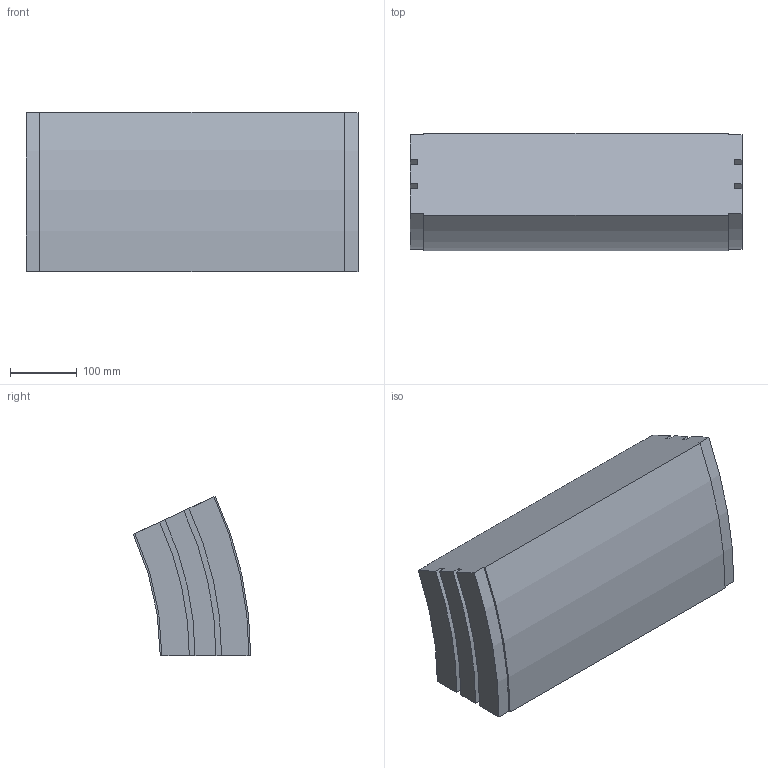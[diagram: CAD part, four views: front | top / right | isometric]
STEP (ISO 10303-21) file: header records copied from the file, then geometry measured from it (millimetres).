
FILE_DESCRIPTION (( 'STEP AP214' ), '1' );
FILE_NAME ('02.150V25.500.N FS-500-MTC-150 Bocht verticaal 25°.STEP', '2013-03-29T13:10:30', ( 'Gebruiker' ), ( '' ), 'SwSTEP 2.0', 'SolidWorks 2012', '' );
FILE_SCHEMA (( 'AUTOMOTIVE_DESIGN' ));
Length unit declared in the file: millimetre
Products named in the file (1): 02.150V25.500.N FS-500-MTC-150 Bocht verticaal 25°
Bounding box: 499 x 176.47 x 240.05 mm (x, y, z)
Volume: 14678219 mm3; surface area: 430829.6 mm2
Topology: 1 solids, 1 shells, 30 faces, 84 edges, 56 vertices
Faces by surface type: plane 16, cylinder 14
Entity records: 1010 total; most frequent: DIRECTION 174, CARTESIAN_POINT 171, ORIENTED_EDGE 168, EDGE_CURVE 84, AXIS2_PLACEMENT_3D 59, VERTEX_POINT 56, LINE 56, VECTOR 56
